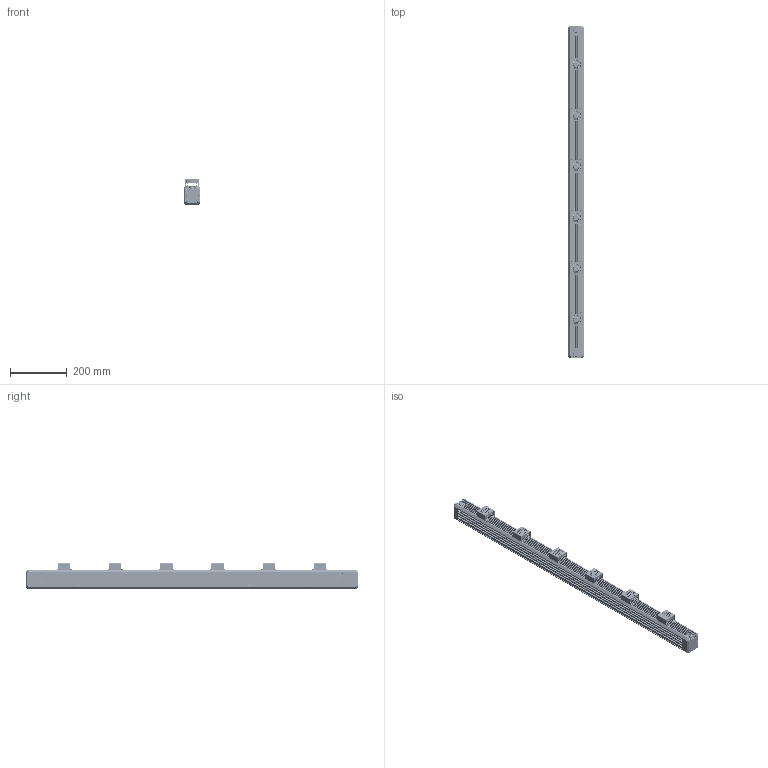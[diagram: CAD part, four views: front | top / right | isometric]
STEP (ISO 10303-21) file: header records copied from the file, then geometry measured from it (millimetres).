
FILE_DESCRIPTION((''),'2;1');
FILE_NAME('MV-LTDS-H-1100-W','2022-09-02T17:00:34',('huguozhe'),(''),'CREO PARAMETRIC BY PTC INC, 2020044','CREO PARAMETRIC BY PTC INC, 2020044','');
FILE_SCHEMA(('AUTOMOTIVE_DESIGN { 1 0 10303 214 1 1 1 1 }'));
Products named in the file (1): MV-LTDS-H-1100-W
Bounding box: 58 x 1170 x 90.6 mm (x, y, z)
Volume: 3174599.6 mm3; surface area: 966985 mm2
Topology: 1 solids, 333 shells, 6901 faces, 17908 edges, 11106 vertices
Faces by surface type: plane 3315, cylinder 2300, cone 834, torus 360, bspline 92
Entity records: 251762 total; most frequent: CARTESIAN_POINT 51994, DIRECTION 37038, ORIENTED_EDGE 34176, EDGE_CURVE 17496, AXIS2_PLACEMENT_3D 14222, VERTEX_POINT 11106, VECTOR 8594, LINE 8594
